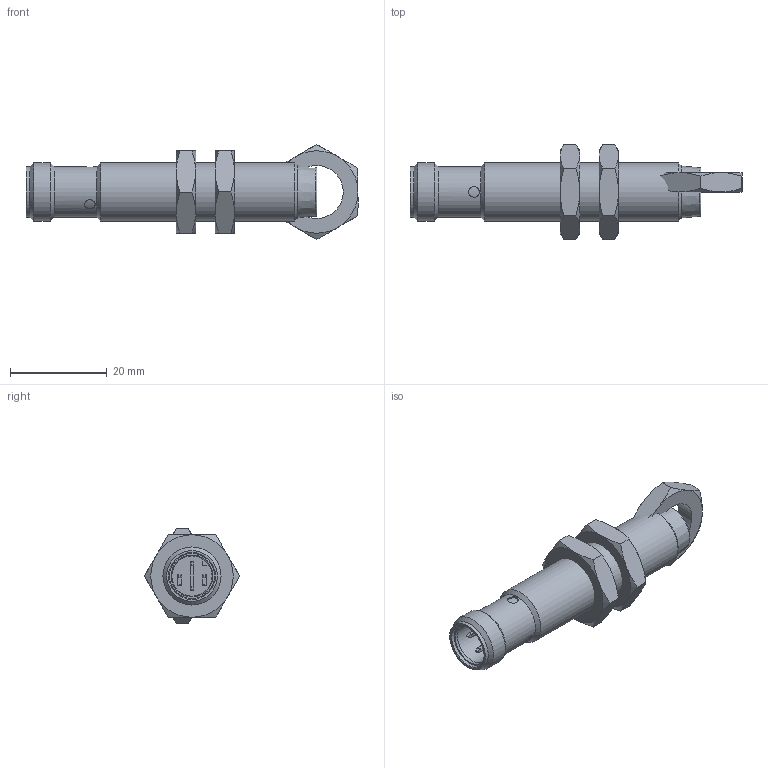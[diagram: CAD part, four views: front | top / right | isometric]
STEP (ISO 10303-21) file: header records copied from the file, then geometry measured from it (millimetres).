
FILE_DESCRIPTION( ( 'Unknown' ), '1' );
FILE_NAME( '//baumerholding.org/frauenfeld/bereich/BECH/Services/me_CAD/Solid Edge/Models/Dokumentationen/Induktiv/IxRx 12/Vereinfachte Modelle/Neutralformate/IFRM 12xx3G1_S14L.stp', 'Unknown', ( 'Unknown' ), ( 'Unknown' ), 'XStep 1.0', 'Unknown', ' ' );
FILE_SCHEMA( ( 'CONFIG_CONTROL_DESIGN' ) );
Length unit declared in the file: millimetre
Products named in the file (3): Assem1; 101470; IFRM 12xx3G1_S14L_oA
Bounding box: 68.5 x 19.63 x 19.63 mm (x, y, z)
Volume: 13483.5 mm3; surface area: 7595.9 mm2
Topology: 5 solids, 7 shells, 275 faces, 682 edges, 437 vertices
Faces by surface type: plane 152, cylinder 67, cone 54, torus 2
Full cylindrical faces by diameter (mm): 2.2 x6, 9.45 x2, 10 x2, 10.45 x4, 10.917 x3, 12 x4
Entity records: 4046 total; most frequent: CARTESIAN_POINT 958, DIRECTION 608, ORIENTED_EDGE 586, EDGE_CURVE 293, AXIS2_PLACEMENT_3D 214, VERTEX_POINT 200, LINE 180, VECTOR 180
